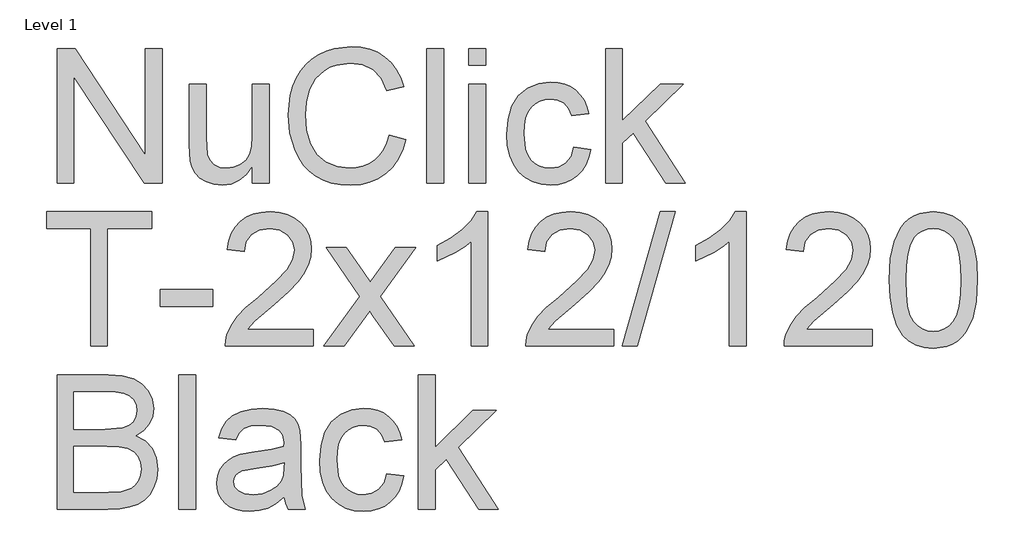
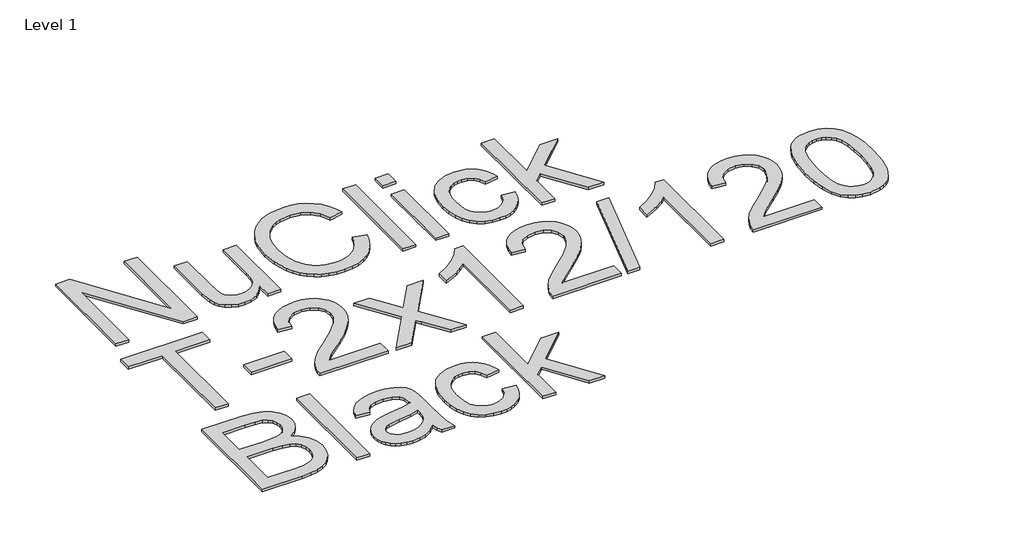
# One storey, part 7 of 13: 1 proxy.
"""IFC4 building model written with IfcOpenShell, lengths in millimetres."""

from ifc_helpers import new_model, si_unit, frame, origin, place, context, project, spatial, polyline, outline, extrude, element, save

model = new_model("IFC4")

# Units and contexts
model_context = context("Model", 3, world=origin())
ifc_project = project(units=[si_unit("LENGTHUNIT", "METRE", prefix="MILLI")], contexts=[model_context])

# Site, building, storey
site = spatial("IfcSite", under=ifc_project)
building = spatial("IfcBuilding", under=site)
storey = spatial("IfcBuildingStorey", under=building, Name="Level 1", Elevation=4000.0)

# Proxy
placement = place(None, origin())
element("IfcBuildingElementProxy", 1, Name="Elysium 400mm Arial", ObjectType="Elysium 400mm Arial", at=placement, inside=storey, context=model_context, shape_type="SweptSolid", body=[
    extrude(outline(polyline([(33183.147161, -9059.2083157), (33183.147161, -8657.3830752), (33236.9069832, -8657.3830752), (33446.8449751, -8975.7236283), (33446.8449751, -8657.3830752), (33497.0731302, -8657.3830752), (33497.0731302, -9059.2083157), (33443.313308, -9059.2083157), (33233.3753161, -8740.7696607), (33233.3753161, -9059.2083157), (33183.147161, -9059.2083157)])), frame((0.0, 0.0, 4000.0), z_axis=(0.0, 0.0, 1.0), x_axis=(1.0, 0.0, 0.0)), (0.0, 0.0, 1.0), 10.0),
    extrude(outline(polyline([(33767.0494637, -9059.2083157), (33767.0494637, -9008.4896513), (33748.8760932, -9033.4259193), (33727.7106157, -9051.2375392), (33703.5530314, -9061.9245111), (33676.4033401, -9065.4868351), (33651.9391875, -9062.9852376), (33629.167292, -9055.4804449), (33610.0619537, -9044.1987303), (33596.5974726, -9030.3663673), (33587.5353128, -9013.5664229), (33581.6369382, -8993.3819641), (33578.6938822, -8946.6854762), (33578.6938822, -8764.1179047), (33628.9220373, -8764.1179047), (33628.9220373, -8923.0429266), (33631.9631951, -8974.2521003), (33639.2840468, -8991.3340876), (33651.8288229, -9004.3203221), (33668.7636574, -9012.5240906), (33689.2546845, -9015.2586801), (33710.922934, -9012.4627769), (33731.1932319, -9004.0750674), (33747.9073373, -8990.8681038), (33758.9070089, -8973.6144382), (33765.01385, -8949.9841514), (33767.0494637, -8917.647324), (33767.0494637, -8764.1179047), (33817.2776188, -8764.1179047), (33817.2776188, -9059.2083157), (33767.0494637, -9059.2083157)])), frame((0.0, 0.0, 4000.0), z_axis=(0.0, 0.0, 1.0), x_axis=(1.0, 0.0, 0.0)), (0.0, 0.0, 1.0), 10.0),
    extrude(outline(polyline([(34175.1532237, -8916.3719998), (34225.3813788, -8929.321446), (34215.4424336, -8960.5576931), (34202.2048131, -8987.8514714), (34185.6685174, -9011.2027811), (34165.8335465, -9030.611622), (34143.1474901, -9045.8695277), (34118.0579381, -9056.7680318), (34090.5648903, -9063.3071343), (34060.6683468, -9065.4868351), (34030.039105, -9063.8374975), (34002.4081015, -9058.8894847), (33977.7753363, -9050.6427966), (33956.1408093, -9039.0974333), (33937.2071492, -9024.4250731), (33920.6769849, -9006.7973942), (33906.5503163, -8986.2143965), (33894.8271434, -8962.6760802), (33879.0450058, -8910.8047189), (33873.7842933, -8855.2545376), (33879.7317189, -8796.6631985), (33887.1660009, -8770.3657672), (33897.5739956, -8746.0671615), (33910.7227113, -8724.1689857), (33926.3791559, -8705.0728445), (33944.5433294, -8688.7787378), (33965.2152318, -8675.2866656), (33987.6928217, -8664.7069925), (34011.2740576, -8657.1500832), (34061.7474673, -8651.1045558), (34090.4759855, -8653.0604617), (34116.819402, -8658.9281795), (34140.777717, -8668.7077092), (34162.3509303, -8682.3990508), (34181.1834228, -8699.6404537), (34196.9195751, -8720.0701671), (34209.5593873, -8743.6881912), (34219.1028594, -8770.4945259), (34168.8747043, -8782.4629535), (34151.4616232, -8745.8341695), (34127.6719209, -8720.7078293), (34097.2112917, -8706.1764904), (34059.78543, -8701.3327108), (34016.6451347, -8706.703788), (33997.9628608, -8713.4176344), (33981.2058359, -8722.8170194), (33954.313662, -8747.9801478), (33936.8147418, -8780.5009162), (33927.2130217, -8817.2645903), (33924.0124484, -8855.1564358), (33927.8016329, -8901.5586181), (33939.1691866, -8941.682281), (33958.544305, -8973.9945829), (33986.3561838, -8996.9626822), (34019.6985553, -9010.6846806), (34055.6651517, -9015.2586801), (34077.5020138, -9013.7013129), (34097.5914364, -9009.0292116), (34115.9334196, -9001.242376), (34132.5279632, -8990.3408063), (34146.9826599, -8976.3735532), (34158.9051023, -8959.3896677), (34168.2952902, -8939.3891499), (34175.1532237, -8916.3719998)])), frame((0.0, 0.0, 4000.0), z_axis=(0.0, 0.0, 1.0), x_axis=(1.0, 0.0, 0.0)), (0.0, 0.0, 1.0), 10.0),
    extrude(outline(polyline([(34288.1665726, -9059.2083157), (34288.1665726, -8657.3830752), (34338.3947277, -8657.3830752), (34338.3947277, -9059.2083157), (34288.1665726, -9059.2083157)])), frame((0.0, 0.0, 4000.0), z_axis=(0.0, 0.0, 1.0), x_axis=(1.0, 0.0, 0.0)), (0.0, 0.0, 1.0), 10.0),
    extrude(outline(polyline([(34413.7369603, -8707.6112302), (34413.7369603, -8657.3830752), (34463.9651154, -8657.3830752), (34463.9651154, -8707.6112302), (34413.7369603, -8707.6112302)])), frame((0.0, 0.0, 4000.0), z_axis=(0.0, 0.0, 1.0), x_axis=(1.0, 0.0, 0.0)), (0.0, 0.0, 1.0), 10.0),
    extrude(outline(polyline([(34413.7369603, -9059.2083157), (34413.7369603, -8764.1179047), (34463.9651154, -8764.1179047), (34463.9651154, -9059.2083157), (34413.7369603, -9059.2083157)])), frame((0.0, 0.0, 4000.0), z_axis=(0.0, 0.0, 1.0), x_axis=(1.0, 0.0, 0.0)), (0.0, 0.0, 1.0), 10.0),
    extrude(outline(polyline([(34727.6629296, -8952.4734862), (34777.8910846, -8958.7520056), (34772.428037, -8982.4528031), (34763.8870433, -9003.4251425), (34752.2681037, -9021.6690238), (34737.571218, -9037.184447), (34720.4156542, -9049.5667418), (34701.4206806, -9058.4112381), (34680.5862969, -9063.7179359), (34657.9125033, -9065.4868351), (34629.7419395, -9063.0189601), (34604.4837748, -9055.6153349), (34582.1380093, -9043.2759597), (34562.7046429, -9026.0008343), (34546.9746219, -9004.1149213), (34535.7388927, -8977.943183), (34528.9974551, -8947.4856195), (34526.7503093, -8912.7422307), (34530.5885447, -8868.0445683), (34542.1032512, -8829.3065942), (34561.4783696, -8798.0243619), (34588.897841, -8775.6939248), (34621.7006522, -8762.3030202), (34657.2257902, -8757.8393853), (34679.5102421, -8759.3722269), (34699.6671097, -8763.9707519), (34717.6963932, -8771.6349601), (34733.5980924, -8782.3648516), (34747.1024273, -8795.9151718), (34757.9396178, -8812.0406659), (34766.1096637, -8830.741334), (34771.6125652, -8852.0171761), (34721.3844102, -8858.2956955), (34712.2731994, -8836.3821913), (34698.0852171, -8820.6736301), (34679.6052782, -8811.2190628), (34657.6181977, -8808.0675404), (34640.5515388, -8809.6187761), (34625.158743, -8814.2724834), (34611.4398102, -8822.0286621), (34599.3947406, -8832.8873123), (34589.5876197, -8847.0998201), (34582.5825334, -8864.9175714), (34578.3794816, -8886.3405662), (34576.9784643, -8911.3688046), (34582.4599061, -8958.4454373), (34589.3117082, -8976.3827502), (34598.9042312, -8990.5860609), (34610.7101776, -9001.3803318), (34624.2022498, -9009.0905253), (34639.3804478, -9013.7166414), (34656.2447716, -9015.2586801), (34682.2540286, -9011.4081818), (34703.5789216, -8999.8566872), (34719.0912791, -8980.3098905), (34727.6629296, -8952.4734862)])), frame((0.0, 0.0, 4000.0), z_axis=(0.0, 0.0, 1.0), x_axis=(1.0, 0.0, 0.0)), (0.0, 0.0, 1.0), 10.0),
    extrude(outline(polyline([(34821.8407203, -9059.2083157), (34821.8407203, -8657.3830752), (34872.0688754, -8657.3830752), (34872.0688754, -8873.3052809), (34984.6898168, -8764.1179047), (35054.1459375, -8764.1179047), (34940.15157, -8874.678707), (35060.4244569, -9059.2083157), (35001.7595414, -9059.2083157), (34904.1481854, -8909.602971), (34872.0688754, -8940.7012624), (34872.0688754, -9059.2083157), (34821.8407203, -9059.2083157)])), frame((0.0, 0.0, 4000.0), z_axis=(0.0, 0.0, 1.0), x_axis=(1.0, 0.0, 0.0)), (0.0, 0.0, 1.0), 10.0),
    extrude(outline(polyline([(33283.6034712, -9547.1075871), (33283.6034712, -9195.5105016), (33151.7545641, -9195.5105016), (33151.7545641, -9145.2823465), (33465.6805333, -9145.2823465), (33465.6805333, -9195.5105016), (33333.8316262, -9195.5105016), (33333.8316262, -9547.1075871), (33283.6034712, -9547.1075871)])), frame((0.0, 0.0, 4000.0), z_axis=(0.0, 0.0, 1.0), x_axis=(1.0, 0.0, 0.0)), (0.0, 0.0, 1.0), 10.0),
    extrude(outline(polyline([(33490.7946108, -9427.8157188), (33490.7946108, -9377.5875638), (33647.7575954, -9377.5875638), (33647.7575954, -9427.8157188), (33490.7946108, -9427.8157188)])), frame((0.0, 0.0, 4000.0), z_axis=(0.0, 0.0, 1.0), x_axis=(1.0, 0.0, 0.0)), (0.0, 0.0, 1.0), 10.0),
    extrude(outline(polyline([(33949.1265259, -9496.8794321), (33949.1265259, -9547.1075871), (33685.4287117, -9547.1075871), (33686.5323577, -9529.4247259), (33690.8243143, -9512.4776287), (33703.2096748, -9485.4137765), (33721.3339945, -9459.1592648), (33747.551718, -9431.6784798), (33784.2172902, -9400.9358077), (33838.4185708, -9352.7923173), (33870.9393392, -9317.2549165), (33887.1997234, -9288.4129681), (33892.6198514, -9260.3558346), (33887.5062917, -9235.2049689), (33872.1656125, -9214.2970088), (33848.5843766, -9200.2071284), (33818.7491468, -9195.5105016), (33787.4178635, -9200.0967638), (33763.0763382, -9213.8555504), (33747.367777, -9235.7077409), (33741.9353862, -9264.5742148), (33691.7072311, -9258.2956955), (33696.0267789, -9232.3661462), (33703.8841252, -9209.7107466), (33715.27927, -9190.3294968), (33730.2122133, -9174.2223968), (33748.3395986, -9161.5611248), (33769.3180694, -9152.5173591), (33793.1476256, -9147.0910997), (33819.8282673, -9145.2823465), (33846.7480323, -9147.2934348), (33870.7063473, -9153.3266995), (33891.7032121, -9163.3821407), (33909.7386269, -9177.4597584), (33924.2239805, -9194.5172202), (33934.5706616, -9213.5121939), (33940.7786703, -9234.4446794), (33942.8480065, -9257.3146768), (33940.6161891, -9281.3373711), (33933.9207368, -9304.9431324), (33922.0381483, -9328.953564), (33904.2449225, -9354.1902689), (33875.8812207, -9384.3198043), (33832.2872042, -9423.0087274), (33774.5052055, -9471.3238961), (33751.8436746, -9496.8794321), (33949.1265259, -9496.8794321)])), frame((0.0, 0.0, 4000.0), z_axis=(0.0, 0.0, 1.0), x_axis=(1.0, 0.0, 0.0)), (0.0, 0.0, 1.0), 10.0),
    extrude(outline(polyline([(33980.5191228, -9547.1075871), (34087.8425635, -9398.7775667), (33986.7976422, -9252.0171761), (34047.2283913, -9252.0171761), (34095.9850184, -9322.6505191), (34118.7446511, -9356.0051534), (34138.4631261, -9328.7328348), (34193.9887819, -9252.0171761), (34254.419531, -9252.0171761), (34148.2733126, -9398.7775667), (34250.4954563, -9547.1075871), (34190.0647073, -9547.1075871), (34128.5548377, -9457.9329915), (34117.2731232, -9441.6480818), (34040.9498719, -9547.1075871), (33980.5191228, -9547.1075871)])), frame((0.0, 0.0, 4000.0), z_axis=(0.0, 0.0, 1.0), x_axis=(1.0, 0.0, 0.0)), (0.0, 0.0, 1.0), 10.0),
    extrude(outline(polyline([(34470.2436348, -9547.1075871), (34420.0154797, -9547.1075871), (34420.0154797, -9233.9664328), (34399.046206, -9250.9257928), (34372.436075, -9267.8606273), (34319.5591696, -9293.2199595), (34319.5591696, -9245.7386567), (34359.0083822, -9224.2788736), (34393.1846195, -9198.7478632), (34420.1258443, -9171.5981719), (34437.8700192, -9145.2823465), (34470.2436348, -9145.2823465), (34470.2436348, -9547.1075871)])), frame((0.0, 0.0, 4000.0), z_axis=(0.0, 0.0, 1.0), x_axis=(1.0, 0.0, 0.0)), (0.0, 0.0, 1.0), 10.0),
    extrude(outline(polyline([(34846.9547979, -9496.8794321), (34846.9547979, -9547.1075871), (34583.2569837, -9547.1075871), (34584.3606297, -9529.4247259), (34588.6525863, -9512.4776287), (34601.0379468, -9485.4137765), (34619.1622664, -9459.1592648), (34645.37999, -9431.6784798), (34682.0455621, -9400.9358077), (34736.2468428, -9352.7923173), (34768.7676111, -9317.2549165), (34785.0279953, -9288.4129681), (34790.4481234, -9260.3558346), (34785.3345637, -9235.2049689), (34769.9938845, -9214.2970088), (34746.4126486, -9200.2071284), (34716.5774188, -9195.5105016), (34685.2461355, -9200.0967638), (34660.9046102, -9213.8555504), (34645.196049, -9235.7077409), (34639.7636582, -9264.5742148), (34589.5355031, -9258.2956955), (34593.8550509, -9232.3661462), (34601.7123971, -9209.7107466), (34613.1075419, -9190.3294968), (34628.0404853, -9174.2223968), (34646.1678706, -9161.5611248), (34667.1463413, -9152.5173591), (34690.9758976, -9147.0910997), (34717.6565393, -9145.2823465), (34744.5763043, -9147.2934348), (34768.5346192, -9153.3266995), (34789.5314841, -9163.3821407), (34807.5668989, -9177.4597584), (34822.0522525, -9194.5172202), (34832.3989336, -9213.5121939), (34838.6069422, -9234.4446794), (34840.6762785, -9257.3146768), (34838.444461, -9281.3373711), (34831.7490087, -9304.9431324), (34819.8664203, -9328.953564), (34802.0731944, -9354.1902689), (34773.7094926, -9384.3198043), (34730.1154762, -9423.0087274), (34672.3334775, -9471.3238961), (34649.6719466, -9496.8794321), (34846.9547979, -9496.8794321)])), frame((0.0, 0.0, 4000.0), z_axis=(0.0, 0.0, 1.0), x_axis=(1.0, 0.0, 0.0)), (0.0, 0.0, 1.0), 10.0),
    extrude(outline(polyline([(34872.0688754, -9547.1075871), (34985.0822243, -9145.2823465), (35030.4052861, -9145.2823465), (34917.3919372, -9547.1075871), (34872.0688754, -9547.1075871)])), frame((0.0, 0.0, 4000.0), z_axis=(0.0, 0.0, 1.0), x_axis=(1.0, 0.0, 0.0)), (0.0, 0.0, 1.0), 10.0),
    extrude(outline(polyline([(35242.5015191, -9547.1075871), (35192.273364, -9547.1075871), (35192.273364, -9233.9664328), (35171.3040903, -9250.9257928), (35144.6939593, -9267.8606273), (35091.8170538, -9293.2199595), (35091.8170538, -9245.7386567), (35131.2662665, -9224.2788736), (35165.4425038, -9198.7478632), (35192.3837286, -9171.5981719), (35210.1279035, -9145.2823465), (35242.5015191, -9145.2823465), (35242.5015191, -9547.1075871)])), frame((0.0, 0.0, 4000.0), z_axis=(0.0, 0.0, 1.0), x_axis=(1.0, 0.0, 0.0)), (0.0, 0.0, 1.0), 10.0),
    extrude(outline(polyline([(35619.2126821, -9496.8794321), (35619.2126821, -9547.1075871), (35355.514868, -9547.1075871), (35356.618514, -9529.4247259), (35360.9104706, -9512.4776287), (35373.2958311, -9485.4137765), (35391.4201507, -9459.1592648), (35417.6378742, -9431.6784798), (35454.3034464, -9400.9358077), (35508.504727, -9352.7923173), (35541.0254954, -9317.2549165), (35557.2858796, -9288.4129681), (35562.7060077, -9260.3558346), (35557.5924479, -9235.2049689), (35542.2517687, -9214.2970088), (35518.6705328, -9200.2071284), (35488.835303, -9195.5105016), (35457.5040198, -9200.0967638), (35433.1624944, -9213.8555504), (35417.4539332, -9235.7077409), (35412.0215424, -9264.5742148), (35361.7933874, -9258.2956955), (35366.1129351, -9232.3661462), (35373.9702814, -9209.7107466), (35385.3654262, -9190.3294968), (35400.2983695, -9174.2223968), (35418.4257548, -9161.5611248), (35439.4042256, -9152.5173591), (35463.2337819, -9147.0910997), (35489.9144236, -9145.2823465), (35516.8341886, -9147.2934348), (35540.7925035, -9153.3266995), (35561.7893684, -9163.3821407), (35579.8247832, -9177.4597584), (35594.3101367, -9194.5172202), (35604.6568179, -9213.5121939), (35610.8648265, -9234.4446794), (35612.9341627, -9257.3146768), (35610.7023453, -9281.3373711), (35604.006893, -9304.9431324), (35592.1243046, -9328.953564), (35574.3310787, -9354.1902689), (35545.9673769, -9384.3198043), (35502.3733605, -9423.0087274), (35444.5913618, -9471.3238961), (35421.9298308, -9496.8794321), (35619.2126821, -9496.8794321)])), frame((0.0, 0.0, 4000.0), z_axis=(0.0, 0.0, 1.0), x_axis=(1.0, 0.0, 0.0)), (0.0, 0.0, 1.0), 10.0),
    extrude(outline(polyline([(35669.4408372, -9349.4323284), (35673.1319199, -9285.1142929), (35684.2051679, -9233.81928), (35702.5502168, -9194.7624749), (35714.4082797, -9179.5290946), (35728.0567018, -9167.1590625), (35743.5414681, -9157.5879993), (35760.9085639, -9150.7515255), (35801.2897443, -9145.2823465), (35832.2408828, -9148.5197081), (35859.9546598, -9158.2317928), (35883.1312255, -9174.0384558), (35900.4707302, -9195.5595525), (35913.5673292, -9222.6111419), (35924.0151779, -9255.009283), (35930.857783, -9296.1507528), (35933.1386513, -9349.4323284), (35929.4843569, -9413.3824819), (35918.5214734, -9464.5548674), (35900.2867892, -9503.6484608), (35888.4563173, -9518.9278263), (35874.8170924, -9531.3622377), (35859.313932, -9540.9976803), (35841.8916538, -9547.8801393), (35801.2897443, -9553.3861065), (35773.6250182, -9550.9948735), (35749.0995519, -9543.8211746), (35727.7133452, -9531.8650098), (35709.4663983, -9515.126379), (35691.9552153, -9484.8680849), (35679.4472275, -9447.1663118), (35671.9424348, -9402.0210596), (35669.4408372, -9349.4323284)]), holes=[polyline([(35719.6689923, -9349.3342265), (35721.1405203, -9392.9987537), (35725.5551042, -9428.3430164), (35732.9127441, -9455.3670146), (35743.21344, -9474.0707484), (35755.6723769, -9486.7963997), (35769.5047399, -9495.8861507), (35784.710529, -9501.3400012), (35801.2897443, -9503.1579514), (35817.8689595, -9501.3338699), (35833.0747487, -9495.8616252), (35846.9071117, -9486.7412174), (35859.3660486, -9473.9726465), (35869.6667444, -9455.2382559), (35877.0243843, -9428.220389), (35881.4389683, -9392.9190459), (35882.9104963, -9349.3342265), (35881.4880192, -9306.825462), (35877.2205881, -9272.103533), (35870.1082028, -9245.1684396), (35860.1508635, -9226.0201817), (35847.9003931, -9212.6721967), (35833.9086145, -9203.1379216), (35818.1755279, -9197.4173566), (35800.7011331, -9195.5105016), (35784.207757, -9197.1904961), (35769.2594852, -9202.2304794), (35755.8563179, -9210.6304516), (35743.9982549, -9222.3904127), (35733.3542025, -9243.2370591), (35725.7513079, -9271.3432435), (35721.1895712, -9306.708966), (35719.6689923, -9349.3342265)])]), frame((0.0, 0.0, 4000.0), z_axis=(0.0, 0.0, 1.0), x_axis=(1.0, 0.0, 0.0)), (0.0, 0.0, 1.0), 10.0),
    extrude(outline(polyline([(33183.147161, -10035.0068585), (33183.147161, -9633.1816179), (33336.4803766, -9633.1816179), (33378.651916, -9636.1369366), (33411.5773545, -9645.0028927), (33436.8140594, -9660.0002154), (33455.9193977, -9681.3496338), (33467.9491389, -9706.4637114), (33471.9590527, -9732.7550113), (33468.5868011, -9756.9493838), (33458.4700462, -9779.6967539), (33441.5352117, -9799.5991698), (33417.7087211, -9815.2586801), (33446.1705248, -9830.1211127), (33467.2011122, -9852.7335926), (33480.1873466, -9881.6000665), (33484.5160914, -9915.2244809), (33481.5607728, -9943.2448262), (33472.6948167, -9969.2295578), (33459.4633276, -9991.327003), (33443.4114099, -10007.685489), (33423.7542486, -10019.5312892), (33399.7070288, -10028.090677), (33370.4849357, -10033.2778131), (33335.3031542, -10035.0068585), (33183.147161, -10035.0068585)]), holes=[polyline([(33233.3753161, -9984.7787034), (33336.3822747, -9984.7787034), (33373.6609836, -9982.8166661), (33405.2007333, -9971.8783081), (33416.7767534, -9962.4482663), (33426.0964306, -9949.5601338), (33432.2400599, -9933.7902589), (33434.2879364, -9915.7149902), (33431.8844407, -9894.721191), (33424.6739536, -9876.6704478), (33412.0801266, -9862.5560419), (33393.5266113, -9853.3712548), (33367.2475741, -9848.3312714), (33331.4771815, -9846.651277), (33233.3753161, -9846.651277), (33233.3753161, -9984.7787034)]), polyline([(33233.3753161, -9796.4231219), (33325.1005602, -9796.4231219), (33378.6641787, -9792.1066398), (33397.4138977, -9784.6631608), (33410.8906415, -9773.5163363), (33419.0208336, -9758.8378447), (33421.7308976, -9740.7993642), (33419.2047746, -9723.2881813), (33411.6264055, -9708.0333412), (33399.3391468, -9696.1262273), (33382.6863552, -9688.6582228), (33357.1308193, -9684.7218854), (33318.1353278, -9683.409773), (33233.3753161, -9683.409773), (33233.3753161, -9796.4231219)])]), frame((0.0, 0.0, 4000.0), z_axis=(0.0, 0.0, 1.0), x_axis=(1.0, 0.0, 0.0)), (0.0, 0.0, 1.0), 10.0),
    extrude(outline(polyline([(33547.3012853, -10035.0068585), (33547.3012853, -9633.1816179), (33597.5294404, -9633.1816179), (33597.5294404, -10035.0068585), (33547.3012853, -10035.0068585)])), frame((0.0, 0.0, 4000.0), z_axis=(0.0, 0.0, 1.0), x_axis=(1.0, 0.0, 0.0)), (0.0, 0.0, 1.0), 10.0),
    extrude(outline(polyline([(33861.2272545, -9997.3357422), (33837.2290857, -10017.9126085), (33812.5196783, -10031.3770895), (33786.5349468, -10038.8083058), (33758.7108052, -10041.2853779), (33736.3466456, -10039.7954558), (33716.7354695, -10035.3256896), (33699.8772771, -10027.8760792), (33685.7720683, -10017.4466246), (33674.6344409, -10004.6995135), (33666.6789927, -9990.2969334), (33661.9057238, -9974.2388843), (33660.3146342, -9956.5253662), (33662.7181299, -9935.7032453), (33669.928617, -9916.7941107), (33681.050916, -9900.6073029), (33695.1898474, -9887.9521623), (33711.8058508, -9878.3872304), (33730.3593661, -9871.4710489), (33773.8184925, -9863.9172053), (33825.174819, -9855.9709542), (33860.9329489, -9846.651277), (33861.2272545, -9835.4676643), (33857.7691638, -9813.0513881), (33847.3948915, -9798.3851592), (33824.1938003, -9787.4958522), (33791.8692357, -9783.8660831), (33761.9481667, -9786.2818416), (33741.0524694, -9793.5291169), (33726.8031735, -9806.9322842), (33716.8213087, -9827.8157188), (33666.5931536, -9821.5371994), (33675.3119569, -9794.0686771), (33688.3227168, -9772.4862668), (33706.8394439, -9755.9806279), (33732.0761487, -9743.7424202), (33762.9414481, -9736.1640511), (33798.3439588, -9733.6379281), (33832.299467, -9735.8697455), (33859.2161663, -9742.5651978), (33879.5109897, -9752.6329017), (33893.6008701, -9764.9814741), (33902.9450728, -9780.2485769), (33909.002863, -9799.0718723), (33911.4554096, -9843.021508), (33911.4554096, -9905.5123962), (33914.0060581, -9992.7740055), (33924.0124484, -10035.0068585), (33873.7842933, -10035.0068585), (33865.7399403, -10017.5447265), (33861.2272545, -9997.3357422)]), holes=[polyline([(33861.2272545, -9896.8794321), (33827.4802128, -9905.2426161), (33780.1951137, -9912.2814249), (33736.981242, -9920.4238797), (33725.7363157, -9925.9911606), (33717.4099199, -9933.6676316), (33712.2595719, -9942.8646815), (33710.5427893, -9952.9936991), (33714.2829229, -9967.9297081), (33725.5033238, -9980.1679158), (33743.9587372, -9988.3348961), (33769.4039085, -9991.0572228), (33796.3819215, -9988.0528532), (33820.2206748, -9979.0397443), (33839.5467423, -9965.7592043), (33852.9866978, -9949.9525412), (33858.9463861, -9933.6676316), (33860.9329489, -9911.1042025), (33861.2272545, -9896.8794321)])]), frame((0.0, 0.0, 4000.0), z_axis=(0.0, 0.0, 1.0), x_axis=(1.0, 0.0, 0.0)), (0.0, 0.0, 1.0), 10.0),
    extrude(outline(polyline([(34168.8747043, -9928.272029), (34219.1028594, -9934.5505484), (34213.6398118, -9958.2513459), (34205.0988181, -9979.2236853), (34193.4798785, -9997.4675666), (34178.7829927, -10012.9829897), (34161.627429, -10025.3652846), (34142.6324554, -10034.2097809), (34121.7980717, -10039.5164786), (34099.1242781, -10041.2853779), (34070.9537143, -10038.8175028), (34045.6955496, -10031.4138777), (34023.3497841, -10019.0745024), (34003.9164177, -10001.7993771), (33988.1863967, -9979.9134641), (33976.9506675, -9953.7417258), (33970.2092299, -9923.2841623), (33967.962084, -9888.5407735), (33971.8003195, -9843.8431111), (33983.315026, -9805.105137), (34002.6901444, -9773.8229047), (34030.1096158, -9751.4924676), (34062.912427, -9738.1015629), (34098.437565, -9733.6379281), (34120.7220169, -9735.1707697), (34140.8788845, -9739.7692946), (34158.908168, -9747.4335029), (34174.8098672, -9758.1633944), (34188.3142021, -9771.7137146), (34199.1513925, -9787.8392087), (34207.3214385, -9806.5398768), (34212.82434, -9827.8157188), (34162.596185, -9834.0942382), (34153.4849742, -9812.180734), (34139.2969919, -9796.4721728), (34120.817053, -9787.0176056), (34098.8299725, -9783.8660831), (34081.7633136, -9785.4173189), (34066.3705178, -9790.0710261), (34052.651585, -9797.8272049), (34040.6065154, -9808.6858551), (34030.7993945, -9822.8983628), (34023.7943082, -9840.7161141), (34019.5912564, -9862.139109), (34018.1902391, -9887.1673474), (34023.6716808, -9934.24398), (34030.523483, -9952.181293), (34040.116006, -9966.3846037), (34051.9219524, -9977.1788746), (34065.4140246, -9984.889068), (34080.5922226, -9989.5151841), (34097.4565463, -9991.0572228), (34123.4658034, -9987.2067246), (34144.7906964, -9975.65523), (34160.3030539, -9956.1084333), (34168.8747043, -9928.272029)])), frame((0.0, 0.0, 4000.0), z_axis=(0.0, 0.0, 1.0), x_axis=(1.0, 0.0, 0.0)), (0.0, 0.0, 1.0), 10.0),
    extrude(outline(polyline([(34263.0524951, -10035.0068585), (34263.0524951, -9633.1816179), (34313.2806502, -9633.1816179), (34313.2806502, -9849.1038236), (34425.9015916, -9739.9164474), (34495.3577123, -9739.9164474), (34381.3633448, -9850.4772497), (34501.6362317, -10035.0068585), (34442.9713162, -10035.0068585), (34345.3599602, -9885.4015138), (34313.2806502, -9916.4998051), (34313.2806502, -10035.0068585), (34263.0524951, -10035.0068585)])), frame((0.0, 0.0, 4000.0), z_axis=(0.0, 0.0, 1.0), x_axis=(1.0, 0.0, 0.0)), (0.0, 0.0, 1.0), 10.0),
])

save(model, "model.ifc")
